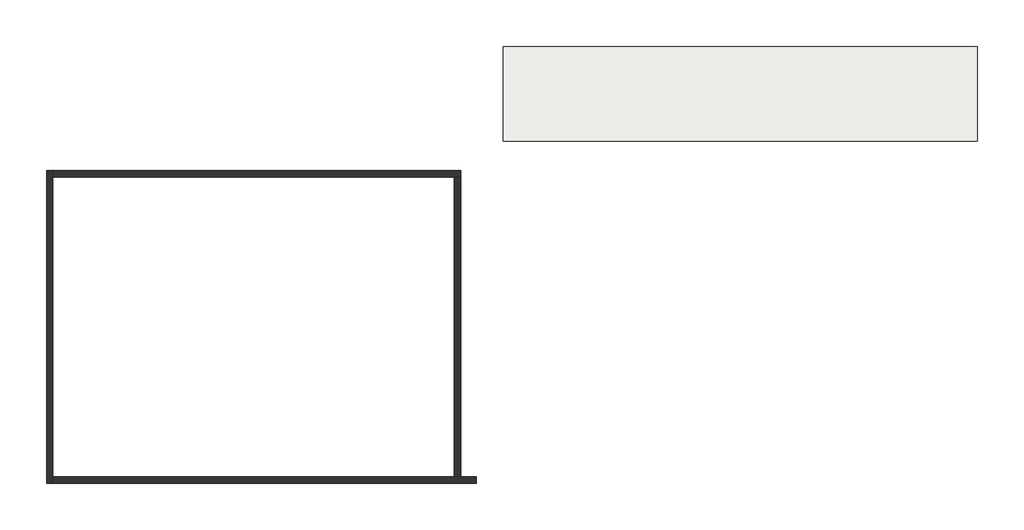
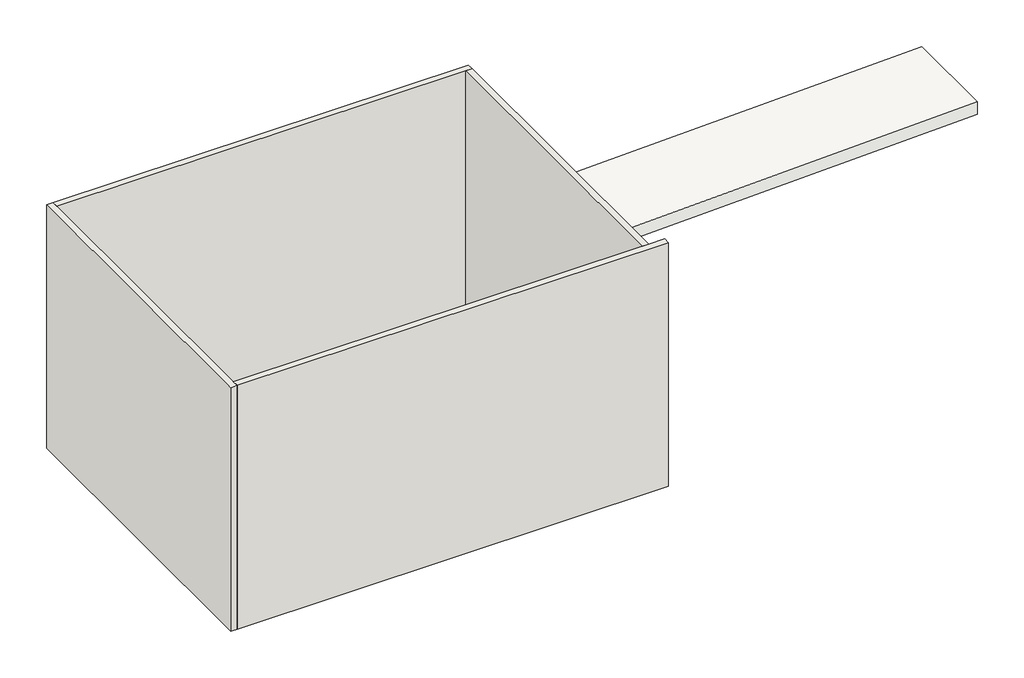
# One storey: 4 walls, 1 slab.
"""IFC4 building model written with IfcOpenShell, lengths in millimetres."""

from ifc_helpers import new_model, si_unit, frame, origin, origin_with_axes, place, context, project, spatial, polyline, outline, extrude, faceted_brep, element, save

model = new_model("IFC4")

# Units and contexts
model_context = context("Model", 3, world=origin())
ifc_project = project(units=[si_unit("LENGTHUNIT", "METRE", prefix="MILLI")], contexts=[model_context])

# Site, building, storey
site = spatial("IfcSite", under=ifc_project)
building = spatial("IfcBuilding", under=site)
storey = spatial("IfcBuildingStorey", under=building, Name="Уровень 1", Elevation=0.0)

# Slab
placement = place(None, origin())
element("IfcSlab", 1, ObjectType="Типовой пол - 400мм", at=placement, inside=storey, context=model_context, shape_type="SweptSolid", body=[
    extrude(outline(polyline([(100.0, 15051.2613921), (500.0, 15051.2613921), (0.0, 51.2613921), (-400.0, 51.2613921), (100.0, 15051.2613921)])), frame((0.0, 9907.6147298, 0.0), z_axis=(0.0, 1.0, 0.0), x_axis=(0.0, 0.0, 1.0)), (0.0, 0.0, 1.0), 3000.0),
])

# Walls
element("IfcWall", 2, ObjectType="Типовой - 200мм", at=placement, inside=storey, context=model_context, shape_type="Brep", body=[
    faceted_brep([(-14399.9059892, 8977.3011005, 0.0), (-14399.9059892, -922.6988995, 0.0), (-14399.9059892, -922.6988995, 8000.0), (-14399.9059892, 8977.3011005, 8000.0), (-14199.9059892, 8977.3011005, 0.0), (-14199.9059892, 8977.3011005, 8000.0), (-14199.9059892, 8777.3011005, 8000.0), (-14199.9059892, -722.6988995, 8000.0), (-14199.9059892, -922.6988995, 8000.0), (-14199.9059892, -922.6988995, 0.0), (-14199.9059892, -722.6988995, 0.0), (-14199.9059892, 8777.3011005, 0.0)], [[[0, 1, 2, 3]], [[4, 5, 6, 7, 8, 9, 10, 11]], [[1, 0, 4, 11, 10, 9]], [[3, 2, 8, 7, 6, 5]], [[2, 1, 9, 8]], [[0, 3, 5, 4]]]),
])
element("IfcWall", 3, ObjectType="Типовой - 200мм", at=placement, inside=storey, context=model_context, shape_type="Brep", body=[
    faceted_brep([(-14199.9059892, -922.6988995, 0.0), (-799.9059892, -922.6988995, 0.0), (-799.9059892, -922.6988995, 8000.0), (-14199.9059892, -922.6988995, 8000.0), (-14199.9059892, -722.6988995, 0.0), (-14199.9059892, -722.6988995, 8000.0), (-1499.9059892, -722.6988995, 8000.0), (-1299.9059892, -722.6988995, 8000.0), (-799.9059892, -722.6988995, 8000.0), (-799.9059892, -722.6988995, 0.0), (-1299.9059892, -722.6988995, 0.0), (-1499.9059892, -722.6988995, 0.0)], [[[0, 1, 2, 3]], [[4, 5, 6, 7, 8, 9, 10, 11]], [[1, 0, 4, 11, 10, 9]], [[2, 1, 9, 8]], [[3, 2, 8, 7, 6, 5]], [[0, 3, 5, 4]]]),
])
element("IfcWall", 4, ObjectType="Типовой - 200мм", at=placement, inside=storey, context=model_context, shape_type="Brep", body=[
    faceted_brep([(-14199.9059892, 8777.3011005, 0.0), (-1499.9059892, 8777.3011005, 0.0), (-1299.9059892, 8777.3011005, 0.0), (-1299.9059892, 8777.3011005, 8000.0), (-1499.9059892, 8777.3011005, 8000.0), (-14199.9059892, 8777.3011005, 8000.0), (-14199.9059892, 8977.3011005, 0.0), (-14199.9059892, 8977.3011005, 8000.0), (-1299.9059892, 8977.3011005, 8000.0), (-1299.9059892, 8977.3011005, 0.0)], [[[0, 1, 2, 3, 4, 5]], [[6, 7, 8, 9]], [[2, 1, 0, 6, 9]], [[5, 4, 3, 8, 7]], [[0, 5, 7, 6]], [[3, 2, 9, 8]]]),
])
element("IfcWall", 5, ObjectType="Типовой - 200мм", at=placement, inside=storey, context=model_context, shape_type="SweptSolid", body=[
    extrude(outline(polyline([(-1499.9059892, -722.6988995), (-1499.9059892, 8777.3011005), (-1299.9059892, 8777.3011005), (-1299.9059892, -722.6988995), (-1499.9059892, -722.6988995)])), origin_with_axes(), (0.0, 0.0, 1.0), 8000.0),
])

save(model, "model.ifc")
